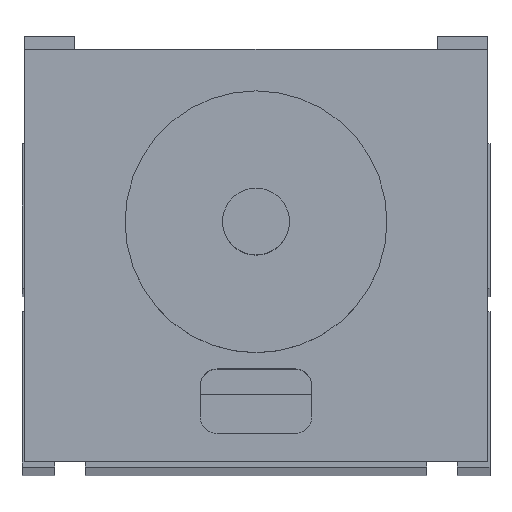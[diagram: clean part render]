
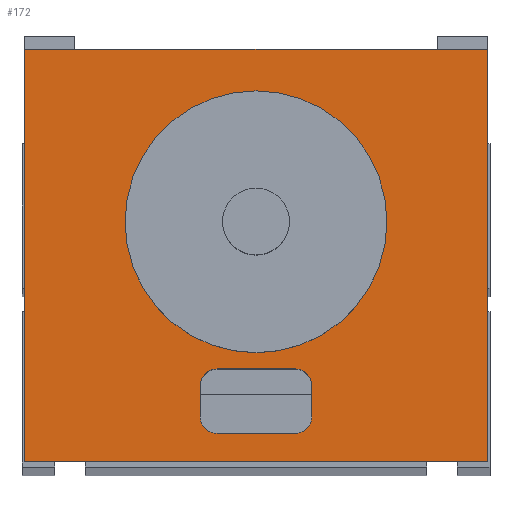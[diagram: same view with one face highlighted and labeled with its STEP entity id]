
A CAD part, top view. The second image highlights one B-rep face of the part: STEP entity #172.
In plain terms, the highlighted planar face has unit normal (0, 0, 1).
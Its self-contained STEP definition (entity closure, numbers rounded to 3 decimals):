
#27 = VERTEX_POINT ( 'NONE', #1786 ) ;
#41 = VERTEX_POINT ( 'NONE', #1836 ) ;
#45 = EDGE_CURVE ( 'NONE', #27, #41, #1888, .T. ) ;
#123 = ORIENTED_EDGE ( 'NONE', *, *, #209, .F. ) ;
#161 = VERTEX_POINT ( 'NONE', #2092 ) ;
#162 = VERTEX_POINT ( 'NONE', #1795 ) ;
#172 = ADVANCED_FACE ( 'NONE', ( #2153, #2154, #2148 ), #2038, .F. ) ;
#177 = ORIENTED_EDGE ( 'NONE', *, *, #298, .F. ) ;
#194 = VERTEX_POINT ( 'NONE', #2158 ) ;
#195 = ORIENTED_EDGE ( 'NONE', *, *, #258, .F. ) ;
#205 = EDGE_CURVE ( 'NONE', #206, #259, #2191, .T. ) ;
#206 = VERTEX_POINT ( 'NONE', #2263 ) ;
#207 = EDGE_LOOP ( 'NONE', ( #123, #177, #274, #195, #249, #281, #282, #223 ) ) ;
#209 = EDGE_CURVE ( 'NONE', #161, #162, #2247, .T. ) ;
#219 = ORIENTED_EDGE ( 'NONE', *, *, #260, .T. ) ;
#220 = EDGE_CURVE ( 'NONE', #162, #227, #2253, .T. ) ;
#221 = VERTEX_POINT ( 'NONE', #2267 ) ;
#222 = EDGE_CURVE ( 'NONE', #194, #273, #2266, .T. ) ;
#223 = ORIENTED_EDGE ( 'NONE', *, *, #220, .F. ) ;
#225 = ORIENTED_EDGE ( 'NONE', *, *, #316, .T. ) ;
#226 = EDGE_LOOP ( 'NONE', ( #235, #219, #228, #225 ) ) ;
#227 = VERTEX_POINT ( 'NONE', #2236 ) ;
#228 = ORIENTED_EDGE ( 'NONE', *, *, #345, .T. ) ;
#229 = EDGE_CURVE ( 'NONE', #41, #27, #2240, .T. ) ;
#235 = ORIENTED_EDGE ( 'NONE', *, *, #222, .T. ) ;
#236 = VERTEX_POINT ( 'NONE', #2269 ) ;
#240 = EDGE_CURVE ( 'NONE', #236, #252, #2268, .T. ) ;
#241 = VERTEX_POINT ( 'NONE', #2211 ) ;
#247 = EDGE_CURVE ( 'NONE', #227, #241, #2205, .T. ) ;
#248 = VERTEX_POINT ( 'NONE', #2199 ) ;
#249 = ORIENTED_EDGE ( 'NONE', *, *, #240, .F. ) ;
#250 = EDGE_CURVE ( 'NONE', #241, #236, #2033, .T. ) ;
#251 = EDGE_LOOP ( 'NONE', ( #290, #291 ) ) ;
#252 = VERTEX_POINT ( 'NONE', #2270 ) ;
#258 = EDGE_CURVE ( 'NONE', #252, #206, #2303, .T. ) ;
#259 = VERTEX_POINT ( 'NONE', #2309 ) ;
#260 = EDGE_CURVE ( 'NONE', #273, #248, #2305, .T. ) ;
#273 = VERTEX_POINT ( 'NONE', #2281 ) ;
#274 = ORIENTED_EDGE ( 'NONE', *, *, #205, .F. ) ;
#281 = ORIENTED_EDGE ( 'NONE', *, *, #250, .F. ) ;
#282 = ORIENTED_EDGE ( 'NONE', *, *, #247, .F. ) ;
#290 = ORIENTED_EDGE ( 'NONE', *, *, #229, .F. ) ;
#291 = ORIENTED_EDGE ( 'NONE', *, *, #45, .F. ) ;
#298 = EDGE_CURVE ( 'NONE', #259, #161, #2443, .T. ) ;
#316 = EDGE_CURVE ( 'NONE', #221, #194, #2495, .T. ) ;
#345 = EDGE_CURVE ( 'NONE', #248, #221, #2532, .T. ) ;
#1786 = CARTESIAN_POINT ( 'NONE',  ( 65., 43., 30. ) ) ;
#1795 = CARTESIAN_POINT ( 'NONE',  ( 31.5, 13.6, 30. ) ) ;
#1836 = CARTESIAN_POINT ( 'NONE',  ( 18., 43., 30. ) ) ;
#1866 = DIRECTION ( 'NONE',  ( 0., 0., 1. ) ) ;
#1867 = CARTESIAN_POINT ( 'NONE',  ( 41.5, 43., 30. ) ) ;
#1868 = AXIS2_PLACEMENT_3D ( 'NONE', #1867, #1866, #1886 ) ;
#1886 = DIRECTION ( 'NONE',  ( -1., 0., 0. ) ) ;
#1888 = CIRCLE ( 'NONE', #1868, 23.5 ) ;
#1989 = DIRECTION ( 'NONE',  ( 1., 0., 0. ) ) ;
#1996 = CARTESIAN_POINT ( 'NONE',  ( 0., 74., 30. ) ) ;
#1998 = DIRECTION ( 'NONE',  ( 1., 0., 0. ) ) ;
#2017 = VECTOR ( 'NONE', #1998, 1000. ) ;
#2018 = DIRECTION ( 'NONE',  ( 0., 0., -1. ) ) ;
#2032 = CARTESIAN_POINT ( 'NONE',  ( 34.5, 5., 30. ) ) ;
#2033 = LINE ( 'NONE', #2032, #2017 ) ;
#2036 = DIRECTION ( 'NONE',  ( -1., 0., 0. ) ) ;
#2037 = AXIS2_PLACEMENT_3D ( 'NONE', #1996, #2018, #2036 ) ;
#2038 = PLANE ( 'NONE',  #2037 ) ;
#2092 = CARTESIAN_POINT ( 'NONE',  ( 34.5, 16.6, 30. ) ) ;
#2148 = FACE_BOUND ( 'NONE', #251, .T. ) ;
#2153 = FACE_BOUND ( 'NONE', #207, .T. ) ;
#2154 = FACE_OUTER_BOUND ( 'NONE', #226, .T. ) ;
#2158 = CARTESIAN_POINT ( 'NONE',  ( 0., 74., 30. ) ) ;
#2163 = DIRECTION ( 'NONE',  ( 1., 0., 0. ) ) ;
#2164 = DIRECTION ( 'NONE',  ( 0., 0., 1. ) ) ;
#2165 = CARTESIAN_POINT ( 'NONE',  ( 48.5, 13.6, 30. ) ) ;
#2169 = AXIS2_PLACEMENT_3D ( 'NONE', #2165, #2164, #2163 ) ;
#2191 = CIRCLE ( 'NONE', #2169, 3. ) ;
#2199 = CARTESIAN_POINT ( 'NONE',  ( 83., 0., 30. ) ) ;
#2205 = CIRCLE ( 'NONE', #2220, 3. ) ;
#2209 = DIRECTION ( 'NONE',  ( -1., 0., 0. ) ) ;
#2211 = CARTESIAN_POINT ( 'NONE',  ( 34.5, 5., 30. ) ) ;
#2218 = DIRECTION ( 'NONE',  ( 0., 0., 1. ) ) ;
#2219 = CARTESIAN_POINT ( 'NONE',  ( 34.5, 8., 30. ) ) ;
#2220 = AXIS2_PLACEMENT_3D ( 'NONE', #2219, #2218, #1989 ) ;
#2227 = DIRECTION ( 'NONE',  ( 0., -1., 0. ) ) ;
#2228 = VECTOR ( 'NONE', #2227, 1000. ) ;
#2230 = CARTESIAN_POINT ( 'NONE',  ( 48.5, 8., 30. ) ) ;
#2231 = DIRECTION ( 'NONE',  ( 0., 0., 1. ) ) ;
#2232 = DIRECTION ( 'NONE',  ( -1., 0., 0. ) ) ;
#2233 = DIRECTION ( 'NONE',  ( 0., 0., 1. ) ) ;
#2235 = AXIS2_PLACEMENT_3D ( 'NONE', #2246, #2233, #2232 ) ;
#2236 = CARTESIAN_POINT ( 'NONE',  ( 31.5, 8., 30. ) ) ;
#2240 = CIRCLE ( 'NONE', #2235, 23.5 ) ;
#2242 = AXIS2_PLACEMENT_3D ( 'NONE', #2230, #2231, #2209 ) ;
#2243 = DIRECTION ( 'NONE',  ( 0., -1., 0. ) ) ;
#2244 = VECTOR ( 'NONE', #2243, 1000. ) ;
#2245 = CARTESIAN_POINT ( 'NONE',  ( 0., 0., 30. ) ) ;
#2246 = CARTESIAN_POINT ( 'NONE',  ( 41.5, 43., 30. ) ) ;
#2247 = CIRCLE ( 'NONE', #2258, 3. ) ;
#2252 = CARTESIAN_POINT ( 'NONE',  ( 31.5, 8., 30. ) ) ;
#2253 = LINE ( 'NONE', #2252, #2228 ) ;
#2255 = DIRECTION ( 'NONE',  ( -1., 0., 0. ) ) ;
#2256 = DIRECTION ( 'NONE',  ( 0., 0., 1. ) ) ;
#2257 = CARTESIAN_POINT ( 'NONE',  ( 34.5, 13.6, 30. ) ) ;
#2258 = AXIS2_PLACEMENT_3D ( 'NONE', #2257, #2256, #2255 ) ;
#2263 = CARTESIAN_POINT ( 'NONE',  ( 51.5, 13.6, 30. ) ) ;
#2266 = LINE ( 'NONE', #2245, #2244 ) ;
#2267 = CARTESIAN_POINT ( 'NONE',  ( 83., 74., 30. ) ) ;
#2268 = CIRCLE ( 'NONE', #2242, 3. ) ;
#2269 = CARTESIAN_POINT ( 'NONE',  ( 48.5, 5., 30. ) ) ;
#2270 = CARTESIAN_POINT ( 'NONE',  ( 51.5, 8., 30. ) ) ;
#2281 = CARTESIAN_POINT ( 'NONE',  ( 0., 0., 30. ) ) ;
#2283 = VECTOR ( 'NONE', #2289, 1000. ) ;
#2289 = DIRECTION ( 'NONE',  ( 0., 1., 0. ) ) ;
#2301 = CARTESIAN_POINT ( 'NONE',  ( 51.5, 8., 30. ) ) ;
#2303 = LINE ( 'NONE', #2301, #2283 ) ;
#2304 = CARTESIAN_POINT ( 'NONE',  ( 0., 0., 30. ) ) ;
#2305 = LINE ( 'NONE', #2304, #2315 ) ;
#2309 = CARTESIAN_POINT ( 'NONE',  ( 48.5, 16.6, 30. ) ) ;
#2314 = DIRECTION ( 'NONE',  ( 1., 0., 0. ) ) ;
#2315 = VECTOR ( 'NONE', #2314, 1000. ) ;
#2428 = VECTOR ( 'NONE', #2433, 1000. ) ;
#2433 = DIRECTION ( 'NONE',  ( -1., 0., 0. ) ) ;
#2439 = CARTESIAN_POINT ( 'NONE',  ( 34.5, 16.6, 30. ) ) ;
#2443 = LINE ( 'NONE', #2439, #2428 ) ;
#2492 = DIRECTION ( 'NONE',  ( -1., 0., 0. ) ) ;
#2493 = VECTOR ( 'NONE', #2492, 1000. ) ;
#2494 = CARTESIAN_POINT ( 'NONE',  ( 0., 74., 30. ) ) ;
#2495 = LINE ( 'NONE', #2494, #2493 ) ;
#2526 = CARTESIAN_POINT ( 'NONE',  ( 83., 0., 30. ) ) ;
#2530 = DIRECTION ( 'NONE',  ( 0., 1., 0. ) ) ;
#2531 = VECTOR ( 'NONE', #2530, 1000. ) ;
#2532 = LINE ( 'NONE', #2526, #2531 ) ;
